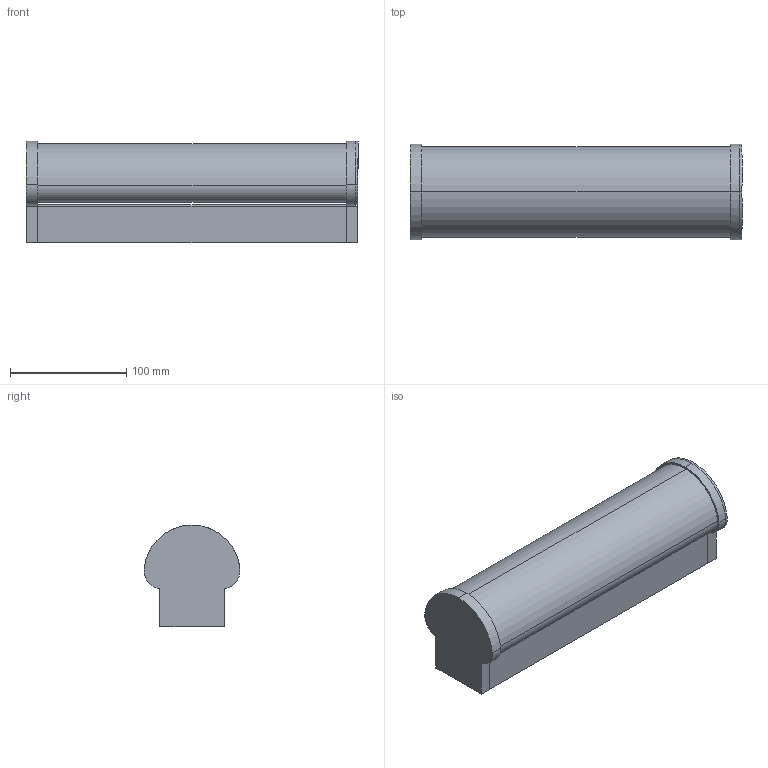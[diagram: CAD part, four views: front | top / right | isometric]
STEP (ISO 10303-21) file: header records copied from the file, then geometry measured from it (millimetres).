
FILE_DESCRIPTION(/* description */ (''),/* implementation_level */ '2;1');
FILE_NAME(/* name */ 'C:\Users\FrancoSartori\Documents\FARO\01_En Proceso\00_DANUBIO\03_Publicación\63603.stp',/* time_stamp */ '2021-05-10T09:59:49+02:00',/* author */ ('FrancoSartori'),/* organization */ (''),/* preprocessor_version */ 'ST-DEVELOPER v18.1',/* originating_system */ 'AutoCAD Mechanical',/* authorisation */ '');
FILE_SCHEMA (('AUTOMOTIVE_DESIGN { 1 0 10303 214 3 1 1 }'));
Length unit declared in the file: millimetre
Products named in the file (2): Product; 63600_ 63603_ 63601_ 6364_ 63602_ 63605 - Lamp-463425-Export
Assembly tree (1 placements, depth 2):
  Product
    63600_ 63603_ 63601_ 6364_ 63602_ 63605 - Lamp-463425-Export
Bounding box: 285 x 82.28 x 87.51 mm (x, y, z)
Volume: 236184.7 mm3; surface area: 269123.4 mm2
Topology: 4 solids, 5 shells, 94 faces, 233 edges, 151 vertices
Faces by surface type: cylinder 50, plane 44
Entity records: 3275 total; most frequent: CARTESIAN_POINT 905, DIRECTION 501, ORIENTED_EDGE 458, EDGE_CURVE 233, AXIS2_PLACEMENT_3D 179, VERTEX_POINT 151, LINE 143, VECTOR 143
